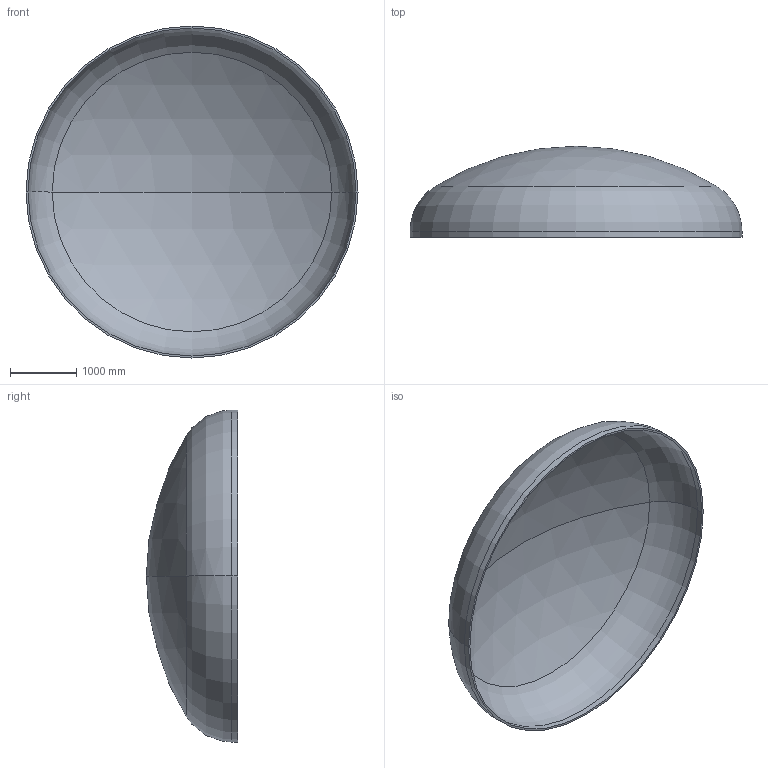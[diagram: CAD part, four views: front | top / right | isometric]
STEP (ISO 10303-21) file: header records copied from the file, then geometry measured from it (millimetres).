
FILE_DESCRIPTION (( 'STEP AP203' ), '1' );
FILE_NAME ('DIN 28013 Korbbogenform_-_Boden DIN 28013 - 5000 x 90 - I - s=30.step', '2016-07-02T00:19:35', ( '' ), ( '' ), 'SwSTEP 2.0', 'SolidWorks 2013', '' );
FILE_SCHEMA (( 'CONFIG_CONTROL_DESIGN' ));
Length unit declared in the file: millimetre
Products named in the file (1): DIN 28013 Korbbogenform_-_Boden DIN 28013 - 5000 x 90 - I - s=30
Bounding box: 5000 x 1373.57 x 5000 mm (x, y, z)
Volume: 851553101.1 mm3; surface area: 57240481 mm2
Topology: 1 solids, 1 shells, 13 faces, 24 edges, 14 vertices
Faces by surface type: torus 4, cylinder 4, sphere 4, plane 1
Entity records: 407 total; most frequent: DIRECTION 72, CARTESIAN_POINT 52, ORIENTED_EDGE 48, AXIS2_PLACEMENT_3D 34, EDGE_CURVE 24, CIRCLE 20, EDGE_LOOP 14, VERTEX_POINT 14
